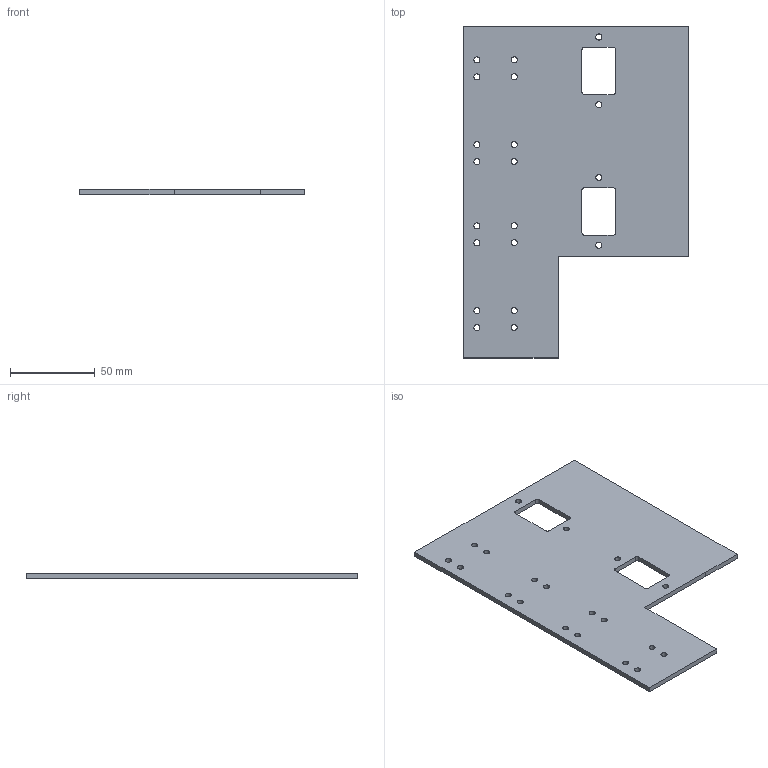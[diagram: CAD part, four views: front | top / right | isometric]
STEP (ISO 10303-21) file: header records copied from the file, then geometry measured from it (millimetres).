
FILE_DESCRIPTION(/* description */ (''),/* implementation_level */ '2;1');
FILE_NAME(/* name */ '9.electronics#9.3#la-pan-9',/* time_stamp */ '2014-12-01T20:18:49+01:00',/* author */ (''),/* organization */ (''),/* preprocessor_version */ 'ST-DEVELOPER v14',/* originating_system */ '',/* authorisation */ '');
FILE_SCHEMA (('AUTOMOTIVE_DESIGN'));
Length unit declared in the file: millimetre
Products named in the file (1): Document
Bounding box: 133 x 196.03 x 3 mm (x, y, z)
Volume: 60397.6 mm3; surface area: 43478.3 mm2
Topology: 1 solids, 1 shells, 65 faces, 189 edges, 126 vertices
Faces by surface type: bspline 56, plane 9
Entity records: 4900 total; most frequent: CARTESIAN_POINT 2631, ORIENTED_EDGE 378, PCURVE 378, DEFINITIONAL_REPRESENTATION 378, B_SPLINE_CURVE_WITH_KNOTS 287, SURFACE_CURVE 189, EDGE_CURVE 189, VERTEX_POINT 126
